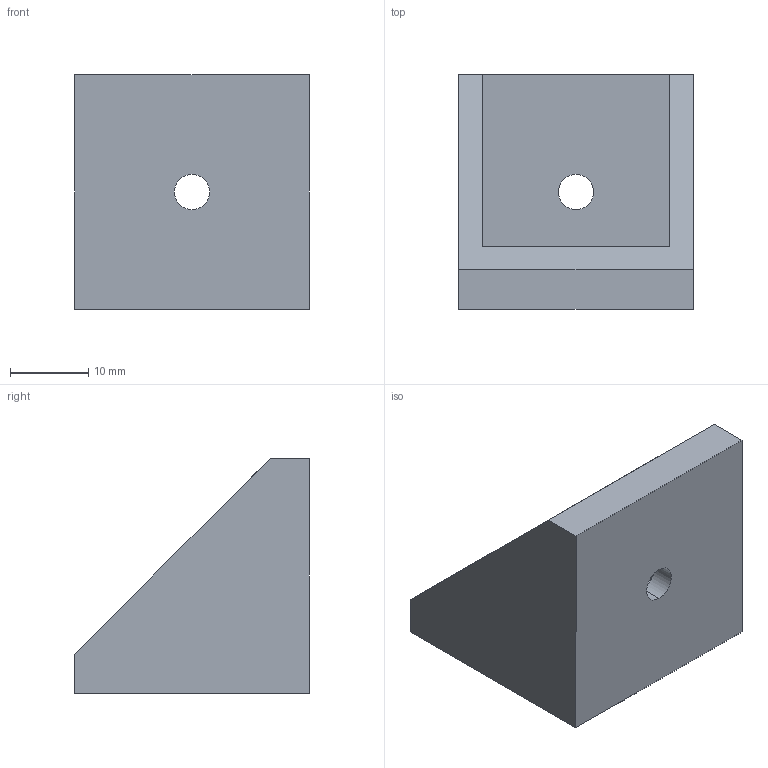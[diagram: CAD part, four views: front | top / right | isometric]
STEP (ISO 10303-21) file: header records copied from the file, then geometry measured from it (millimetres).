
FILE_DESCRIPTION (( 'STEP AP203' ), '1' );
FILE_NAME ('v3leg.STEP', '2017-06-25T11:40:32', ( '' ), ( '' ), 'SwSTEP 2.0', 'SolidWorks 2016', '' );
FILE_SCHEMA (( 'CONFIG_CONTROL_DESIGN' ));
Length unit declared in the file: millimetre
Products named in the file (1): v3leg
Bounding box: 30 x 30 x 30 mm (x, y, z)
Volume: 7785.6 mm3; surface area: 5718.2 mm2
Topology: 1 solids, 1 shells, 16 faces, 42 edges, 28 vertices
Faces by surface type: plane 12, cylinder 4
Entity records: 579 total; most frequent: CARTESIAN_POINT 87, DIRECTION 84, ORIENTED_EDGE 84, EDGE_CURVE 42, LINE 34, VECTOR 34, VERTEX_POINT 28, AXIS2_PLACEMENT_3D 25
